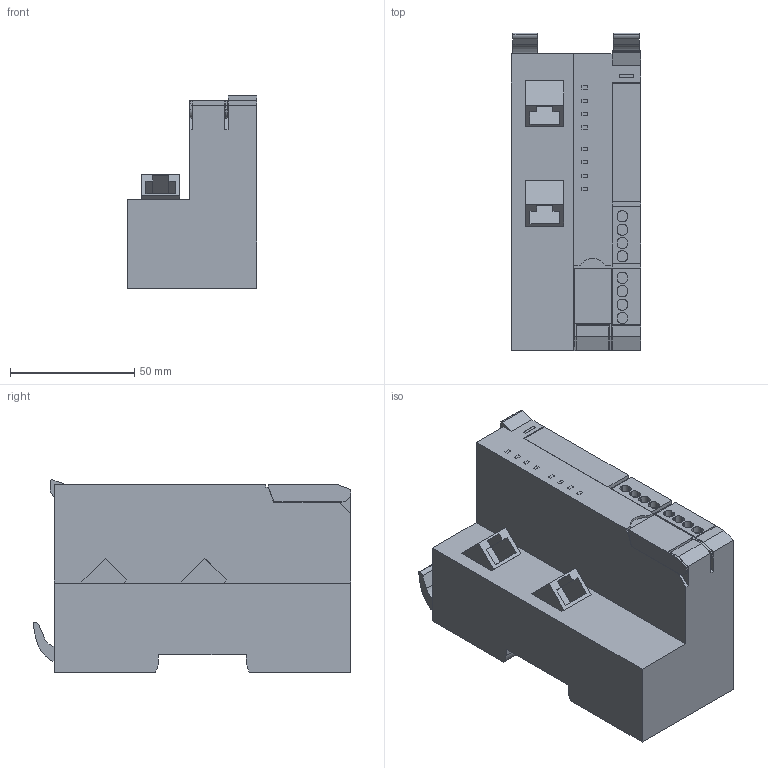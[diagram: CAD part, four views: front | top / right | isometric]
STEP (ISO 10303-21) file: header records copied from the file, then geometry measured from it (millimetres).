
FILE_DESCRIPTION((''),'2;1');
FILE_NAME('ASM0001_ASM','2019-03-20T',('XE51514'),(''),'CREO PARAMETRIC BY PTC INC, 2017480','CREO PARAMETRIC BY PTC INC, 2017480','');
FILE_SCHEMA(('CONFIG_CONTROL_DESIGN'));
Length unit declared in the file: millimetre
Products named in the file (3): PRT0001; PRT0002; ASM0001_ASM
Assembly tree (2 placements, depth 2):
  ASM0001_ASM
    PRT0001
    PRT0002
Bounding box: 52 x 127.89 x 77.45 mm (x, y, z)
Volume: 338486.9 mm3; surface area: 41813 mm2
Topology: 2 solids, 2 shells, 260 faces, 697 edges, 465 vertices
Faces by surface type: plane 209, cylinder 51
Entity records: 8175 total; most frequent: CARTESIAN_POINT 1461, ORIENTED_EDGE 1394, DIRECTION 1333, EDGE_CURVE 697, VECTOR 587, LINE 587, VERTEX_POINT 465, AXIS2_PLACEMENT_3D 373
